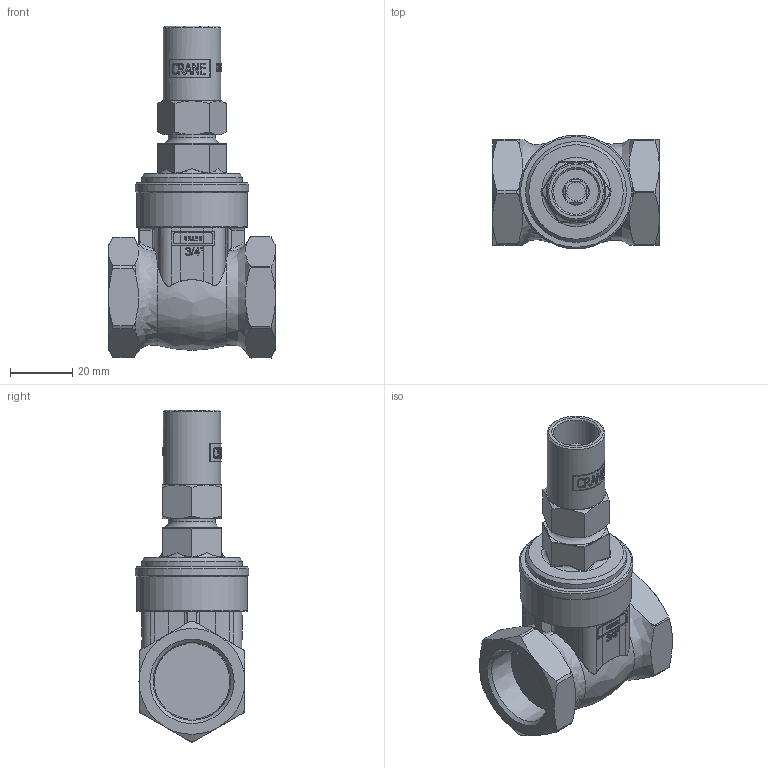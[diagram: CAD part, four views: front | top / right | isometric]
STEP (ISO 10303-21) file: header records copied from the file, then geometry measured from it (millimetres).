
FILE_DESCRIPTION((''),'2;1');
FILE_NAME('P:\Fastrack\53972_CRANE 3D\Gate Valves\Work Space\Lockshield\D237_3-4in\D237_3-4in.stp','2011-03-14T10:11:25',('btaylor'),(''),'Autodesk Inventor 2008','Autodesk Inventor 2008','');
FILE_SCHEMA(('AUTOMOTIVE_DESIGN { 1 0 10303 214 1 1 1 1 }'));
Length unit declared in the file: millimetre
Products named in the file (1): D237_3-4in
Bounding box: 53.5 x 36.5 x 106.42 mm (x, y, z)
Volume: 71041.9 mm3; surface area: 17749.2 mm2
Topology: 1 solids, 1 shells, 855 faces, 2260 edges, 1447 vertices
Faces by surface type: bspline 374, plane 304, cylinder 130, cone 30, torus 17
Full cylindrical faces by diameter (mm): 6 x1, 7.9 x1, 8.5 x1, 13.37 x1, 14.5 x1, 15 x1, 18.5 x1, 32.3 x1, 35.5 x1, 36.5 x1
Entity records: 106079 total; most frequent: CARTESIAN_POINT 87312, ORIENTED_EDGE 4368, DIRECTION 2532, EDGE_CURVE 2184, VERTEX_POINT 1430, B_SPLINE_CURVE_WITH_KNOTS 980, EDGE_LOOP 950, AXIS2_PLACEMENT_3D 892
